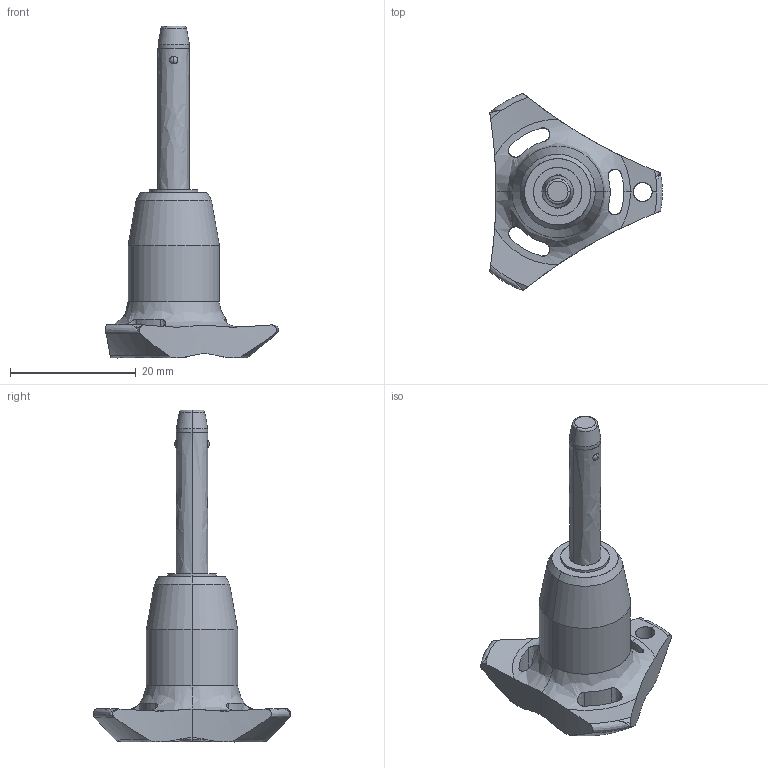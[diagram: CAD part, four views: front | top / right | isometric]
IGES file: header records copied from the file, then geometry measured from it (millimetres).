
Start section: SolidWorks IGES file using analytic representation for surfaces
Global section: file name: C:\Users\ianosborn\Desktop\QR1716_v2\QR1716_v2_20251114_IGES\QR1716.M05-020-T.igs; native system: SolidWorks 2019; preprocessor: SolidWorks 2019; author: IanOsborn; date: 251113.102356; units: millimetre
Bounding box: 27.4 x 31.31 x 52.7 mm (x, y, z)
Surface area: 2822.6 mm2 (no closed solid volume)
Topology: 0 solids, 0 shells, 69 faces, 1299 edges, 1280 vertices
Faces by surface type: revolution 52, bspline 17
